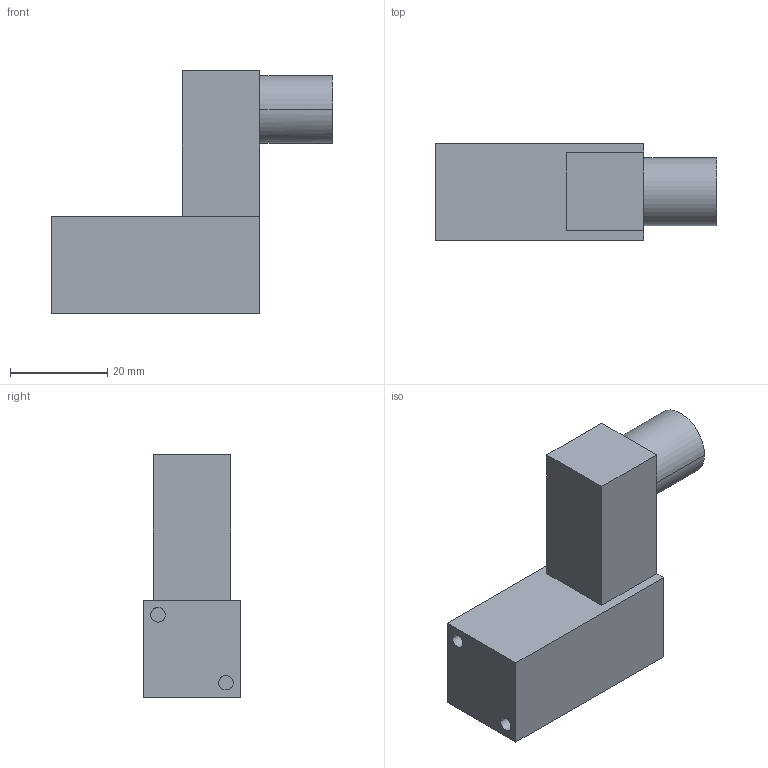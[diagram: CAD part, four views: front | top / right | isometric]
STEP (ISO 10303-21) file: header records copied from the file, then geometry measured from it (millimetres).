
FILE_DESCRIPTION(/* description */ (''),/* implementation_level */ '2;1');
FILE_NAME(/* name */ '11.air-assist#11.1#la-evas',/* time_stamp */ '2014-12-01T20:19:38+01:00',/* author */ (''),/* organization */ (''),/* preprocessor_version */ 'ST-DEVELOPER v14',/* originating_system */ '',/* authorisation */ '');
FILE_SCHEMA (('AUTOMOTIVE_DESIGN'));
Length unit declared in the file: millimetre
Products named in the file (1): Document
Bounding box: 58 x 20 x 50 mm (x, y, z)
Volume: 27125.4 mm3; surface area: 6914.3 mm2
Topology: 1 solids, 1 shells, 20 faces, 43 edges, 28 vertices
Faces by surface type: plane 14, bspline 6
Entity records: 1233 total; most frequent: CARTESIAN_POINT 614, B_SPLINE_CURVE_WITH_KNOTS 105, ORIENTED_EDGE 86, PCURVE 86, DEFINITIONAL_REPRESENTATION 86, SURFACE_CURVE 43, EDGE_CURVE 43, VERTEX_POINT 28
